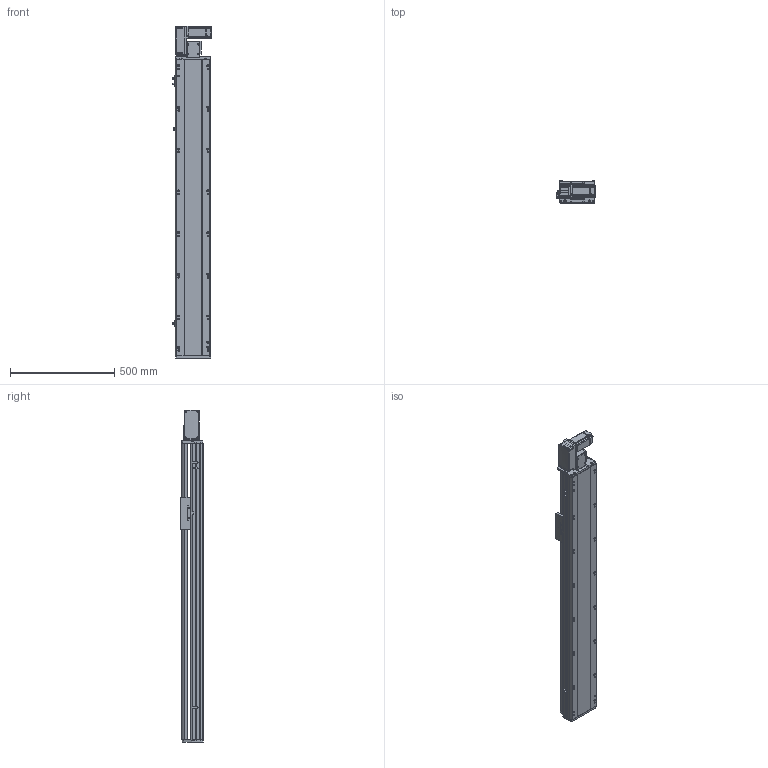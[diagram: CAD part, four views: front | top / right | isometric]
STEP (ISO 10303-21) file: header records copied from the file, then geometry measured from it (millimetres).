
FILE_DESCRIPTION (( 'STEP AP214' ), '1' );
FILE_NAME ('RTB17S-XX-1150-L-M40-C4.STEP', '2025-12-11T05:37:39', ( '' ), ( '' ), 'SwSTEP 2.0', 'SolidWorks 2018', '' );
FILE_SCHEMA (( 'AUTOMOTIVE_DESIGN' ));
Length unit declared in the file: millimetre
Products named in the file (14): RTB14-L-005P--轴承塑胶压盖^RTB17S-L-皮带座装配-400W_RTB17S-XX-XX-L-M40-C4（方程式）; 400W伺服电机^RTB17S-XX-XX-L-M40-C4（方程式）; RTB17S-L-皮带座装配-400W^RTB17S-XX-XX-L-M40-C4（方程式）; RTB17S-XX-1150-L-M40-C4; RTB17-R-011底座^RTB17S-XX-XX-L-M40-C4（方程式）; OMRON EE-SX672 传感器^RTB17S-XX-XX-L-M40-C4（方程式）; RTB17S-L-007上盖^RTB17S-XX-XX-L-M40-C4（方程式）; RTB17S-L-004丝杆螺母连接座^RTB17S-XX-XX-L-M40-C4（方程式）; RTB14-L-018P^RTB17S-L-皮带座装配-400W_RTB17S-XX-XX-L-M40-C4（方程式）; RMP17S-L-014-T20--皮带座^RTB17S-L-皮带座装配-400W_RTB17S-XX-XX-L-M40-C4（方程式）; RTB14-L-017P^RTB17S-L-皮带座装配-400W_RTB17S-XX-XX-L-M40-C4（方程式）; RTB14-L-008-M20--电机板^RTB17S-L-皮带座装配-400W_RTB17S-XX-XX-L-M40-C4（方程式）; RTH13-BL-012感应片外置^RTB17S-XX-XX-L-M40-C4（方程式）; RTB17S-L-001侧面板^RTB17S-XX-XX-L-M40-C4（方程式）
Assembly tree (16 placements, depth 3):
  RTB17S-XX-1150-L-M40-C4
    RTB17-R-011底座^RTB17S-XX-XX-L-M40-C4（方程式）
    RTB17S-L-007上盖^RTB17S-XX-XX-L-M40-C4（方程式）
    OMRON EE-SX672 传感器^RTB17S-XX-XX-L-M40-C4（方程式）  x3
    RTB17S-L-001侧面板^RTB17S-XX-XX-L-M40-C4（方程式）
    400W伺服电机^RTB17S-XX-XX-L-M40-C4（方程式）
    RTB17S-L-004丝杆螺母连接座^RTB17S-XX-XX-L-M40-C4（方程式）
    RTH13-BL-012感应片外置^RTB17S-XX-XX-L-M40-C4（方程式）
    RTB17S-L-皮带座装配-400W^RTB17S-XX-XX-L-M40-C4（方程式）
      RMP17S-L-014-T20--皮带座^RTB17S-L-皮带座装配-400W_RTB17S-XX-XX-L-M40-C4（方程式）
      RTB14-L-005P--轴承塑胶压盖^RTB17S-L-皮带座装配-400W_RTB17S-XX-XX-L-M40-C4（方程式）
      RTB14-L-008-M20--电机板^RTB17S-L-皮带座装配-400W_RTB17S-XX-XX-L-M40-C4（方程式）
      RTB14-L-017P^RTB17S-L-皮带座装配-400W_RTB17S-XX-XX-L-M40-C4（方程式）  x2
      RTB14-L-018P^RTB17S-L-皮带座装配-400W_RTB17S-XX-XX-L-M40-C4（方程式）
Bounding box: 186 x 108 x 1591 mm (x, y, z)
Volume: 13597602.2 mm3; surface area: 1631458.5 mm2
Topology: 15 solids, 15 shells, 2221 faces, 6141 edges, 4005 vertices
Faces by surface type: plane 1070, cylinder 703, bspline 301, cone 139, torus 8
Entity records: 63401 total; most frequent: CARTESIAN_POINT 17746, ORIENTED_EDGE 9126, DIRECTION 8486, EDGE_CURVE 4563, VERTEX_POINT 2993, AXIS2_PLACEMENT_3D 2923, LINE 2640, VECTOR 2640
